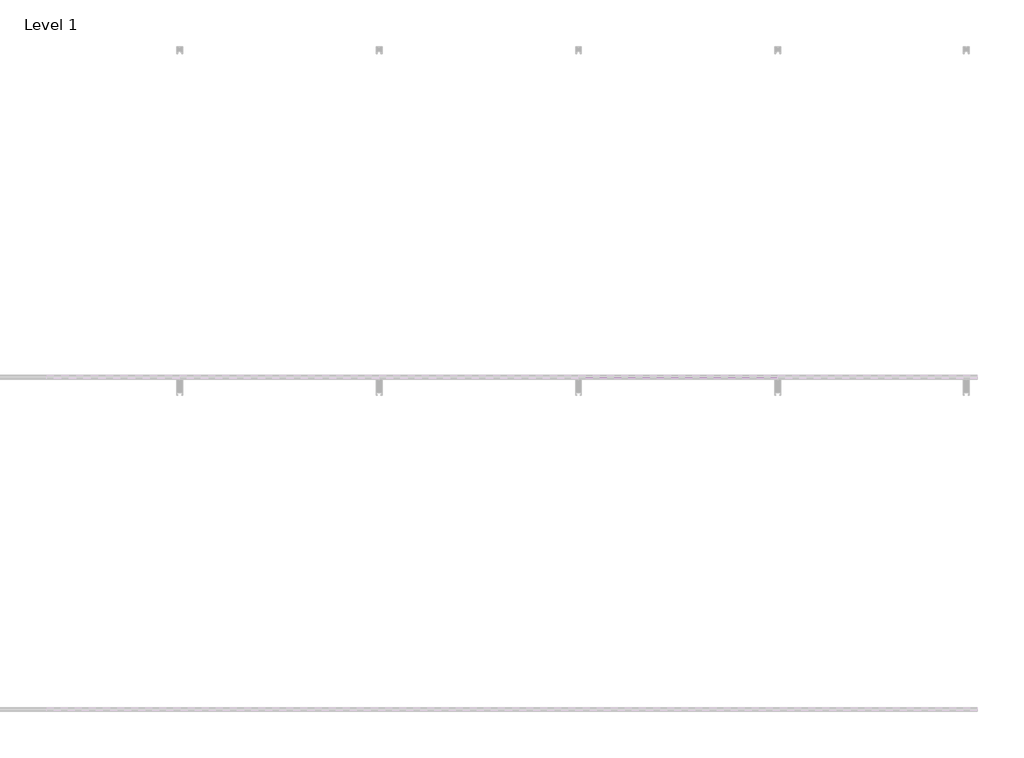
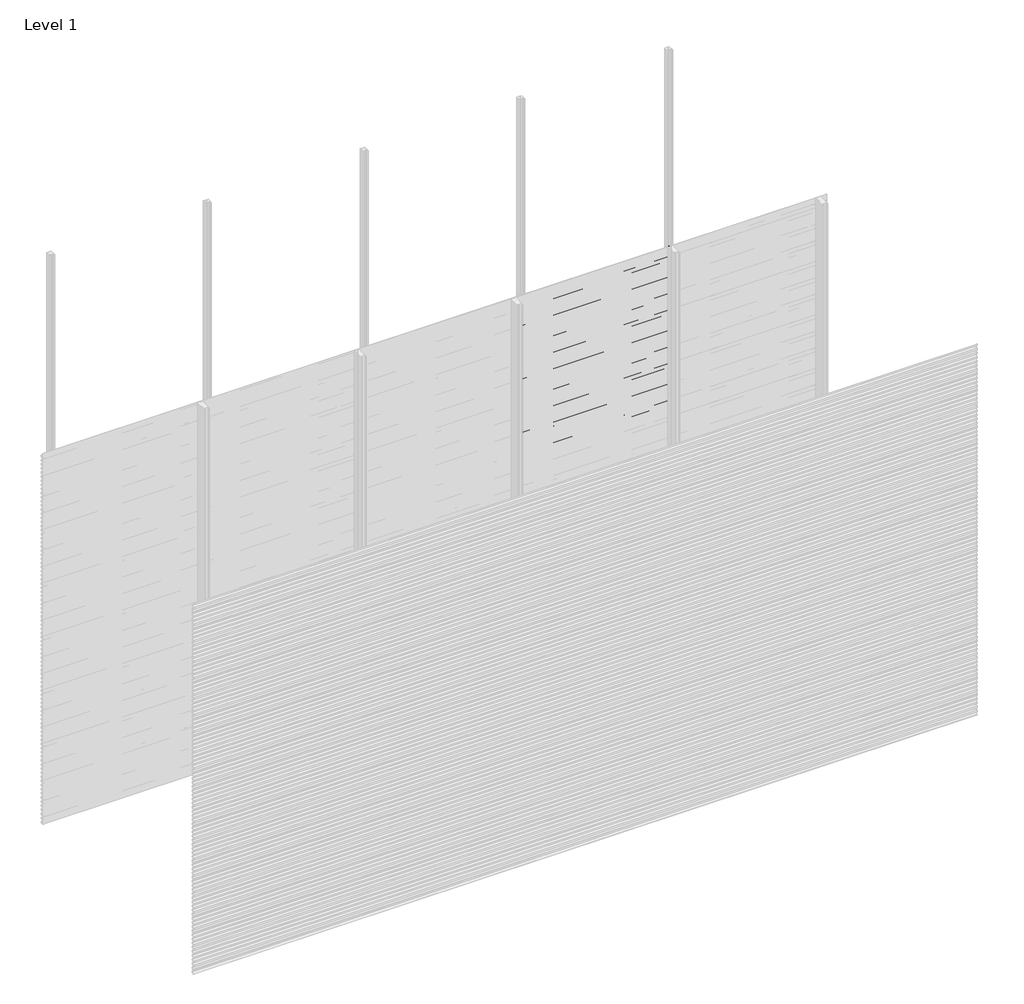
# One storey, part 53 of 77: 72 proxies.
"""IFC4 building model written with IfcOpenShell, lengths in millimetres."""

from ifc_helpers import new_model, si_unit, frame, origin, place, context, project, spatial, polyline, outline, extrude, element, save

model = new_model("IFC4")

# Units and contexts
model_context = context("Model", 3, world=origin())
ifc_project = project(units=[si_unit("LENGTHUNIT", "METRE", prefix="MILLI")], contexts=[model_context])

# Site, building, storey
site = spatial("IfcSite", under=ifc_project)
building = spatial("IfcBuilding", under=site)
storey = spatial("IfcBuildingStorey", under=building, Name="Level 1", Elevation=0.0)

# Proxies
placement = place(None, origin())
element("IfcBuildingElementProxy", 1, Name="Wall Sweeps", at=placement, inside=storey, context=model_context, shape_type="SweptSolid", body=[
    extrude(outline(polyline([(-17978.6, 1007.8359887), (-17998.0, 1019.0366691), (-17998.0, 1032.3), (-17997.0, 1032.3), (-17997.0, 1019.6191057), (-17977.6, 1008.4185105), (-17977.6, 994.8185105), (-17978.6, 996.3953129), (-17978.6, 1002.2032062), (-17995.9773817, 994.1), (-17996.4, 995.0063078), (-17978.6, 1003.3065841), (-17978.6, 1007.8359887)])), frame((2400.0, 0.0, 0.0), z_axis=(1.0, 0.0, 0.0), x_axis=(0.0, 1.0, 0.0)), (0.0, 0.0, 1.0), 1200.0),
])
element("IfcBuildingElementProxy", 2, Name="Wall Sweeps", at=placement, inside=storey, context=model_context, shape_type="SweptSolid", body=[
    extrude(outline(polyline([(-17978.6, 974.5359887), (-17998.0, 985.7366691), (-17998.0, 999.0), (-17997.0, 999.0), (-17997.0, 986.3191057), (-17977.6, 975.1185105), (-17977.6, 961.5185105), (-17978.6, 963.0953129), (-17978.6, 968.9032062), (-17995.9773817, 960.8), (-17996.4, 961.7063078), (-17978.6, 970.0065841), (-17978.6, 974.5359887)])), frame((2400.0, 0.0, 0.0), z_axis=(1.0, 0.0, 0.0), x_axis=(0.0, 1.0, 0.0)), (0.0, 0.0, 1.0), 1200.0),
])
element("IfcBuildingElementProxy", 3, Name="Wall Sweeps", at=placement, inside=storey, context=model_context, shape_type="SweptSolid", body=[
    extrude(outline(polyline([(-17978.6, 941.2359887), (-17998.0, 952.4366691), (-17998.0, 965.7), (-17997.0, 965.7), (-17997.0, 953.0191057), (-17977.6, 941.8185105), (-17977.6, 928.2185105), (-17978.6, 929.7953129), (-17978.6, 935.6032062), (-17995.9773817, 927.5), (-17996.4, 928.4063078), (-17978.6, 936.7065841), (-17978.6, 941.2359887)])), frame((2400.0, 0.0, 0.0), z_axis=(1.0, 0.0, 0.0), x_axis=(0.0, 1.0, 0.0)), (0.0, 0.0, 1.0), 1200.0),
])
element("IfcBuildingElementProxy", 4, Name="Wall Sweeps", at=placement, inside=storey, context=model_context, shape_type="SweptSolid", body=[
    extrude(outline(polyline([(-17978.6, 907.9359887), (-17998.0, 919.1366691), (-17998.0, 932.4), (-17997.0, 932.4), (-17997.0, 919.7191057), (-17977.6, 908.5185105), (-17977.6, 894.9185105), (-17978.6, 896.4953129), (-17978.6, 902.3032062), (-17995.9773817, 894.2), (-17996.4, 895.1063078), (-17978.6, 903.4065841), (-17978.6, 907.9359887)])), frame((2400.0, 0.0, 0.0), z_axis=(1.0, 0.0, 0.0), x_axis=(0.0, 1.0, 0.0)), (0.0, 0.0, 1.0), 1200.0),
])
element("IfcBuildingElementProxy", 5, Name="Wall Sweeps", at=placement, inside=storey, context=model_context, shape_type="SweptSolid", body=[
    extrude(outline(polyline([(-17978.6, 874.6359887), (-17998.0, 885.8366691), (-17998.0, 899.1), (-17997.0, 899.1), (-17997.0, 886.4191057), (-17977.6, 875.2185105), (-17977.6, 861.6185105), (-17978.6, 863.1953129), (-17978.6, 869.0032062), (-17995.9773817, 860.9), (-17996.4, 861.8063078), (-17978.6, 870.1065841), (-17978.6, 874.6359887)])), frame((2400.0, 0.0, 0.0), z_axis=(1.0, 0.0, 0.0), x_axis=(0.0, 1.0, 0.0)), (0.0, 0.0, 1.0), 1200.0),
])
element("IfcBuildingElementProxy", 6, Name="Wall Sweeps", at=placement, inside=storey, context=model_context, shape_type="SweptSolid", body=[
    extrude(outline(polyline([(-17978.6, 841.3359887), (-17998.0, 852.5366691), (-17998.0, 865.8), (-17997.0, 865.8), (-17997.0, 853.1191057), (-17977.6, 841.9185105), (-17977.6, 828.3185105), (-17978.6, 829.8953129), (-17978.6, 835.7032062), (-17995.9773817, 827.6), (-17996.4, 828.5063078), (-17978.6, 836.8065841), (-17978.6, 841.3359887)])), frame((2400.0, 0.0, 0.0), z_axis=(1.0, 0.0, 0.0), x_axis=(0.0, 1.0, 0.0)), (0.0, 0.0, 1.0), 1200.0),
])
element("IfcBuildingElementProxy", 7, Name="Wall Sweeps", at=placement, inside=storey, context=model_context, shape_type="SweptSolid", body=[
    extrude(outline(polyline([(-17978.6, 808.0359887), (-17998.0, 819.2366691), (-17998.0, 832.5), (-17997.0, 832.5), (-17997.0, 819.8191057), (-17977.6, 808.6185105), (-17977.6, 795.0185105), (-17978.6, 796.5953129), (-17978.6, 802.4032062), (-17995.9773817, 794.3), (-17996.4, 795.2063078), (-17978.6, 803.5065841), (-17978.6, 808.0359887)])), frame((2400.0, 0.0, 0.0), z_axis=(1.0, 0.0, 0.0), x_axis=(0.0, 1.0, 0.0)), (0.0, 0.0, 1.0), 1200.0),
])
element("IfcBuildingElementProxy", 8, Name="Wall Sweeps", at=placement, inside=storey, context=model_context, shape_type="SweptSolid", body=[
    extrude(outline(polyline([(-17978.6, 774.7359887), (-17998.0, 785.9366691), (-17998.0, 799.2), (-17997.0, 799.2), (-17997.0, 786.5191057), (-17977.6, 775.3185105), (-17977.6, 761.7185105), (-17978.6, 763.2953129), (-17978.6, 769.1032062), (-17995.9773817, 761.0), (-17996.4, 761.9063078), (-17978.6, 770.2065841), (-17978.6, 774.7359887)])), frame((2400.0, 0.0, 0.0), z_axis=(1.0, 0.0, 0.0), x_axis=(0.0, 1.0, 0.0)), (0.0, 0.0, 1.0), 1200.0),
])
element("IfcBuildingElementProxy", 9, Name="Wall Sweeps", at=placement, inside=storey, context=model_context, shape_type="SweptSolid", body=[
    extrude(outline(polyline([(-17978.6, 741.4359887), (-17998.0, 752.6366691), (-17998.0, 765.9), (-17997.0, 765.9), (-17997.0, 753.2191057), (-17977.6, 742.0185105), (-17977.6, 728.4185105), (-17978.6, 729.9953129), (-17978.6, 735.8032062), (-17995.9773817, 727.7), (-17996.4, 728.6063078), (-17978.6, 736.9065841), (-17978.6, 741.4359887)])), frame((2400.0, 0.0, 0.0), z_axis=(1.0, 0.0, 0.0), x_axis=(0.0, 1.0, 0.0)), (0.0, 0.0, 1.0), 1200.0),
])
element("IfcBuildingElementProxy", 10, Name="Wall Sweeps", at=placement, inside=storey, context=model_context, shape_type="SweptSolid", body=[
    extrude(outline(polyline([(-17978.6, 708.1359887), (-17998.0, 719.3366691), (-17998.0, 732.6), (-17997.0, 732.6), (-17997.0, 719.9191057), (-17977.6, 708.7185105), (-17977.6, 695.1185105), (-17978.6, 696.6953129), (-17978.6, 702.5032062), (-17995.9773817, 694.4), (-17996.4, 695.3063078), (-17978.6, 703.6065841), (-17978.6, 708.1359887)])), frame((2400.0, 0.0, 0.0), z_axis=(1.0, 0.0, 0.0), x_axis=(0.0, 1.0, 0.0)), (0.0, 0.0, 1.0), 1200.0),
])
element("IfcBuildingElementProxy", 11, Name="Wall Sweeps", at=placement, inside=storey, context=model_context, shape_type="SweptSolid", body=[
    extrude(outline(polyline([(-17978.6, 674.8359887), (-17998.0, 686.0366691), (-17998.0, 699.3), (-17997.0, 699.3), (-17997.0, 686.6191057), (-17977.6, 675.4185105), (-17977.6, 661.8185105), (-17978.6, 663.3953129), (-17978.6, 669.2032062), (-17995.9773817, 661.1), (-17996.4, 662.0063078), (-17978.6, 670.3065841), (-17978.6, 674.8359887)])), frame((2400.0, 0.0, 0.0), z_axis=(1.0, 0.0, 0.0), x_axis=(0.0, 1.0, 0.0)), (0.0, 0.0, 1.0), 1200.0),
])
element("IfcBuildingElementProxy", 12, Name="Wall Sweeps", at=placement, inside=storey, context=model_context, shape_type="SweptSolid", body=[
    extrude(outline(polyline([(-17978.6, 641.5359887), (-17998.0, 652.7366691), (-17998.0, 666.0), (-17997.0, 666.0), (-17997.0, 653.3191057), (-17977.6, 642.1185105), (-17977.6, 628.5185105), (-17978.6, 630.0953129), (-17978.6, 635.9032062), (-17995.9773817, 627.8), (-17996.4, 628.7063078), (-17978.6, 637.0065841), (-17978.6, 641.5359887)])), frame((2400.0, 0.0, 0.0), z_axis=(1.0, 0.0, 0.0), x_axis=(0.0, 1.0, 0.0)), (0.0, 0.0, 1.0), 1200.0),
])
element("IfcBuildingElementProxy", 13, Name="Wall Sweeps", at=placement, inside=storey, context=model_context, shape_type="SweptSolid", body=[
    extrude(outline(polyline([(-17978.6, 608.2359887), (-17998.0, 619.4366691), (-17998.0, 632.7), (-17997.0, 632.7), (-17997.0, 620.0191057), (-17977.6, 608.8185105), (-17977.6, 595.2185105), (-17978.6, 596.7953129), (-17978.6, 602.6032062), (-17995.9773817, 594.5), (-17996.4, 595.4063078), (-17978.6, 603.7065841), (-17978.6, 608.2359887)])), frame((2400.0, 0.0, 0.0), z_axis=(1.0, 0.0, 0.0), x_axis=(0.0, 1.0, 0.0)), (0.0, 0.0, 1.0), 1200.0),
])
element("IfcBuildingElementProxy", 14, Name="Wall Sweeps", at=placement, inside=storey, context=model_context, shape_type="SweptSolid", body=[
    extrude(outline(polyline([(-17978.6, 574.9359887), (-17998.0, 586.1366691), (-17998.0, 599.4), (-17997.0, 599.4), (-17997.0, 586.7191057), (-17977.6, 575.5185105), (-17977.6, 561.9185105), (-17978.6, 563.4953129), (-17978.6, 569.3032062), (-17995.9773817, 561.2), (-17996.4, 562.1063078), (-17978.6, 570.4065841), (-17978.6, 574.9359887)])), frame((2400.0, 0.0, 0.0), z_axis=(1.0, 0.0, 0.0), x_axis=(0.0, 1.0, 0.0)), (0.0, 0.0, 1.0), 1200.0),
])
element("IfcBuildingElementProxy", 15, Name="Wall Sweeps", at=placement, inside=storey, context=model_context, shape_type="SweptSolid", body=[
    extrude(outline(polyline([(-17978.6, 541.6359887), (-17998.0, 552.8366691), (-17998.0, 566.1), (-17997.0, 566.1), (-17997.0, 553.4191057), (-17977.6, 542.2185105), (-17977.6, 528.6185105), (-17978.6, 530.1953129), (-17978.6, 536.0032062), (-17995.9773817, 527.9), (-17996.4, 528.8063078), (-17978.6, 537.1065841), (-17978.6, 541.6359887)])), frame((2400.0, 0.0, 0.0), z_axis=(1.0, 0.0, 0.0), x_axis=(0.0, 1.0, 0.0)), (0.0, 0.0, 1.0), 1200.0),
])
element("IfcBuildingElementProxy", 16, Name="Wall Sweeps", at=placement, inside=storey, context=model_context, shape_type="SweptSolid", body=[
    extrude(outline(polyline([(-17978.6, 508.3359887), (-17998.0, 519.5366691), (-17998.0, 532.8), (-17997.0, 532.8), (-17997.0, 520.1191057), (-17977.6, 508.9185105), (-17977.6, 495.3185105), (-17978.6, 496.8953129), (-17978.6, 502.7032062), (-17995.9773817, 494.6), (-17996.4, 495.5063078), (-17978.6, 503.8065841), (-17978.6, 508.3359887)])), frame((2400.0, 0.0, 0.0), z_axis=(1.0, 0.0, 0.0), x_axis=(0.0, 1.0, 0.0)), (0.0, 0.0, 1.0), 1200.0),
])
element("IfcBuildingElementProxy", 17, Name="Wall Sweeps", at=placement, inside=storey, context=model_context, shape_type="SweptSolid", body=[
    extrude(outline(polyline([(-17978.6, 475.0359887), (-17998.0, 486.2366691), (-17998.0, 499.5), (-17997.0, 499.5), (-17997.0, 486.8191057), (-17977.6, 475.6185105), (-17977.6, 462.0185105), (-17978.6, 463.5953129), (-17978.6, 469.4032062), (-17995.9773817, 461.3), (-17996.4, 462.2063078), (-17978.6, 470.5065841), (-17978.6, 475.0359887)])), frame((2400.0, 0.0, 0.0), z_axis=(1.0, 0.0, 0.0), x_axis=(0.0, 1.0, 0.0)), (0.0, 0.0, 1.0), 1200.0),
])
element("IfcBuildingElementProxy", 18, Name="Wall Sweeps", at=placement, inside=storey, context=model_context, shape_type="SweptSolid", body=[
    extrude(outline(polyline([(-17978.6, 441.7359887), (-17998.0, 452.9366691), (-17998.0, 466.2), (-17997.0, 466.2), (-17997.0, 453.5191057), (-17977.6, 442.3185105), (-17977.6, 428.7185105), (-17978.6, 430.2953129), (-17978.6, 436.1032062), (-17995.9773817, 428.0), (-17996.4, 428.9063078), (-17978.6, 437.2065841), (-17978.6, 441.7359887)])), frame((2400.0, 0.0, 0.0), z_axis=(1.0, 0.0, 0.0), x_axis=(0.0, 1.0, 0.0)), (0.0, 0.0, 1.0), 1200.0),
])
element("IfcBuildingElementProxy", 19, Name="Wall Sweeps", at=placement, inside=storey, context=model_context, shape_type="SweptSolid", body=[
    extrude(outline(polyline([(-17978.6, 408.4359887), (-17998.0, 419.6366691), (-17998.0, 432.9), (-17997.0, 432.9), (-17997.0, 420.2191057), (-17977.6, 409.0185105), (-17977.6, 395.4185105), (-17978.6, 396.9953129), (-17978.6, 402.8032062), (-17995.9773817, 394.7), (-17996.4, 395.6063078), (-17978.6, 403.9065841), (-17978.6, 408.4359887)])), frame((2400.0, 0.0, 0.0), z_axis=(1.0, 0.0, 0.0), x_axis=(0.0, 1.0, 0.0)), (0.0, 0.0, 1.0), 1200.0),
])
element("IfcBuildingElementProxy", 20, Name="Wall Sweeps", at=placement, inside=storey, context=model_context, shape_type="SweptSolid", body=[
    extrude(outline(polyline([(-17978.6, 375.1359887), (-17998.0, 386.3366691), (-17998.0, 399.6), (-17997.0, 399.6), (-17997.0, 386.9191057), (-17977.6, 375.7185105), (-17977.6, 362.1185105), (-17978.6, 363.6953129), (-17978.6, 369.5032062), (-17995.9773817, 361.4), (-17996.4, 362.3063078), (-17978.6, 370.6065841), (-17978.6, 375.1359887)])), frame((2400.0, 0.0, 0.0), z_axis=(1.0, 0.0, 0.0), x_axis=(0.0, 1.0, 0.0)), (0.0, 0.0, 1.0), 1200.0),
])
element("IfcBuildingElementProxy", 21, Name="Wall Sweeps", at=placement, inside=storey, context=model_context, shape_type="SweptSolid", body=[
    extrude(outline(polyline([(-17978.6, 341.8359887), (-17998.0, 353.0366691), (-17998.0, 366.3), (-17997.0, 366.3), (-17997.0, 353.6191057), (-17977.6, 342.4185105), (-17977.6, 328.8185105), (-17978.6, 330.3953129), (-17978.6, 336.2032062), (-17995.9773817, 328.1), (-17996.4, 329.0063078), (-17978.6, 337.3065841), (-17978.6, 341.8359887)])), frame((2400.0, 0.0, 0.0), z_axis=(1.0, 0.0, 0.0), x_axis=(0.0, 1.0, 0.0)), (0.0, 0.0, 1.0), 1200.0),
])
element("IfcBuildingElementProxy", 22, Name="Wall Sweeps", at=placement, inside=storey, context=model_context, shape_type="SweptSolid", body=[
    extrude(outline(polyline([(-17978.6, 308.5359887), (-17998.0, 319.7366691), (-17998.0, 333.0), (-17997.0, 333.0), (-17997.0, 320.3191057), (-17977.6, 309.1185105), (-17977.6, 295.5185105), (-17978.6, 297.0953129), (-17978.6, 302.9032062), (-17995.9773817, 294.8), (-17996.4, 295.7063078), (-17978.6, 304.0065841), (-17978.6, 308.5359887)])), frame((2400.0, 0.0, 0.0), z_axis=(1.0, 0.0, 0.0), x_axis=(0.0, 1.0, 0.0)), (0.0, 0.0, 1.0), 1200.0),
])
element("IfcBuildingElementProxy", 23, Name="Wall Sweeps", at=placement, inside=storey, context=model_context, shape_type="SweptSolid", body=[
    extrude(outline(polyline([(-17978.6, 275.2359887), (-17998.0, 286.4366691), (-17998.0, 299.7), (-17997.0, 299.7), (-17997.0, 287.0191057), (-17977.6, 275.8185105), (-17977.6, 262.2185105), (-17978.6, 263.7953129), (-17978.6, 269.6032062), (-17995.9773817, 261.5), (-17996.4, 262.4063078), (-17978.6, 270.7065841), (-17978.6, 275.2359887)])), frame((2400.0, 0.0, 0.0), z_axis=(1.0, 0.0, 0.0), x_axis=(0.0, 1.0, 0.0)), (0.0, 0.0, 1.0), 1200.0),
])
element("IfcBuildingElementProxy", 24, Name="Wall Sweeps", at=placement, inside=storey, context=model_context, shape_type="SweptSolid", body=[
    extrude(outline(polyline([(-17978.6, 241.9359887), (-17998.0, 253.1366691), (-17998.0, 266.4), (-17997.0, 266.4), (-17997.0, 253.7191057), (-17977.6, 242.5185105), (-17977.6, 228.9185105), (-17978.6, 230.4953129), (-17978.6, 236.3032062), (-17995.9773817, 228.2), (-17996.4, 229.1063078), (-17978.6, 237.4065841), (-17978.6, 241.9359887)])), frame((2400.0, 0.0, 0.0), z_axis=(1.0, 0.0, 0.0), x_axis=(0.0, 1.0, 0.0)), (0.0, 0.0, 1.0), 1200.0),
])
element("IfcBuildingElementProxy", 25, Name="Wall Sweeps", at=placement, inside=storey, context=model_context, shape_type="SweptSolid", body=[
    extrude(outline(polyline([(-17978.6, 208.6359887), (-17998.0, 219.8366691), (-17998.0, 233.1), (-17997.0, 233.1), (-17997.0, 220.4191057), (-17977.6, 209.2185105), (-17977.6, 195.6185105), (-17978.6, 197.1953129), (-17978.6, 203.0032062), (-17995.9773817, 194.9), (-17996.4, 195.8063078), (-17978.6, 204.1065841), (-17978.6, 208.6359887)])), frame((2400.0, 0.0, 0.0), z_axis=(1.0, 0.0, 0.0), x_axis=(0.0, 1.0, 0.0)), (0.0, 0.0, 1.0), 1200.0),
])
element("IfcBuildingElementProxy", 26, Name="Wall Sweeps", at=placement, inside=storey, context=model_context, shape_type="SweptSolid", body=[
    extrude(outline(polyline([(-17978.6, 175.3359887), (-17998.0, 186.5366691), (-17998.0, 199.8), (-17997.0, 199.8), (-17997.0, 187.1191057), (-17977.6, 175.9185105), (-17977.6, 162.3185105), (-17978.6, 163.8953129), (-17978.6, 169.7032062), (-17995.9773817, 161.6), (-17996.4, 162.5063078), (-17978.6, 170.8065841), (-17978.6, 175.3359887)])), frame((2400.0, 0.0, 0.0), z_axis=(1.0, 0.0, 0.0), x_axis=(0.0, 1.0, 0.0)), (0.0, 0.0, 1.0), 1200.0),
])
element("IfcBuildingElementProxy", 27, Name="Wall Sweeps", at=placement, inside=storey, context=model_context, shape_type="SweptSolid", body=[
    extrude(outline(polyline([(-17978.6, 142.0359887), (-17998.0, 153.2366691), (-17998.0, 166.5), (-17997.0, 166.5), (-17997.0, 153.8191057), (-17977.6, 142.6185105), (-17977.6, 129.0185105), (-17978.6, 130.5953129), (-17978.6, 136.4032062), (-17995.9773817, 128.3), (-17996.4, 129.2063078), (-17978.6, 137.5065841), (-17978.6, 142.0359887)])), frame((2400.0, 0.0, 0.0), z_axis=(1.0, 0.0, 0.0), x_axis=(0.0, 1.0, 0.0)), (0.0, 0.0, 1.0), 1200.0),
])
element("IfcBuildingElementProxy", 28, Name="Wall Sweeps", at=placement, inside=storey, context=model_context, shape_type="SweptSolid", body=[
    extrude(outline(polyline([(-17978.6, 108.7359887), (-17998.0, 119.9366691), (-17998.0, 133.2), (-17997.0, 133.2), (-17997.0, 120.5191057), (-17977.6, 109.3185105), (-17977.6, 95.7185105), (-17978.6, 97.2953129), (-17978.6, 103.1032062), (-17995.9773817, 95.0), (-17996.4, 95.9063078), (-17978.6, 104.2065841), (-17978.6, 108.7359887)])), frame((2400.0, 0.0, 0.0), z_axis=(1.0, 0.0, 0.0), x_axis=(0.0, 1.0, 0.0)), (0.0, 0.0, 1.0), 1200.0),
])
element("IfcBuildingElementProxy", 29, Name="Wall Sweeps", at=placement, inside=storey, context=model_context, shape_type="SweptSolid", body=[
    extrude(outline(polyline([(-17978.6, 75.4359887), (-17998.0, 86.6366691), (-17998.0, 99.9), (-17997.0, 99.9), (-17997.0, 87.2191057), (-17977.6, 76.0185105), (-17977.6, 62.4185105), (-17978.6, 63.9953129), (-17978.6, 69.8032062), (-17995.9773817, 61.7), (-17996.4, 62.6063078), (-17978.6, 70.9065841), (-17978.6, 75.4359887)])), frame((2400.0, 0.0, 0.0), z_axis=(1.0, 0.0, 0.0), x_axis=(0.0, 1.0, 0.0)), (0.0, 0.0, 1.0), 1200.0),
])
element("IfcBuildingElementProxy", 30, Name="Wall Sweeps", at=placement, inside=storey, context=model_context, shape_type="SweptSolid", body=[
    extrude(outline(polyline([(-17978.6, 42.1359887), (-17998.0, 53.3366691), (-17998.0, 66.6), (-17997.0, 66.6), (-17997.0, 53.9191057), (-17977.6, 42.7185105), (-17977.6, 29.1185105), (-17978.6, 30.6953129), (-17978.6, 36.5032062), (-17995.9773817, 28.4), (-17996.4, 29.3063078), (-17978.6, 37.6065841), (-17978.6, 42.1359887)])), frame((2400.0, 0.0, 0.0), z_axis=(1.0, 0.0, 0.0), x_axis=(0.0, 1.0, 0.0)), (0.0, 0.0, 1.0), 1200.0),
])
element("IfcBuildingElementProxy", 31, Name="Wall Sweeps", at=placement, inside=storey, context=model_context, shape_type="SweptSolid", body=[
    extrude(outline(polyline([(-17978.6, 8.8359887), (-17998.0, 20.0366691), (-17998.0, 33.3), (-17997.0, 33.3), (-17997.0, 20.6191057), (-17977.6, 9.4185105), (-17977.6, -4.1814895), (-17978.6, -2.6046871), (-17978.6, 3.2032062), (-17995.9773817, -4.9), (-17996.4, -3.9936922), (-17978.6, 4.3065841), (-17978.6, 8.8359887)])), frame((2400.0, 0.0, 0.0), z_axis=(1.0, 0.0, 0.0), x_axis=(0.0, 1.0, 0.0)), (0.0, 0.0, 1.0), 1200.0),
])
element("IfcBuildingElementProxy", 32, Name="Wall Sweeps", at=placement, inside=storey, context=model_context, shape_type="SweptSolid", body=[
    extrude(outline(polyline([(-17978.6, 2972.5359887), (-17998.0, 2983.7366691), (-17998.0, 2997.0), (-17997.0, 2997.0), (-17997.0, 2984.3191057), (-17977.6, 2973.1185105), (-17977.6, 2959.5185105), (-17978.6, 2961.0953129), (-17978.6, 2966.9032062), (-17995.9773817, 2958.8), (-17996.4, 2959.7063078), (-17978.6, 2968.0065841), (-17978.6, 2972.5359887)])), frame((3600.0, 0.0, 0.0), z_axis=(1.0, 0.0, 0.0), x_axis=(0.0, 1.0, 0.0)), (0.0, 0.0, 1.0), 1200.0),
])
element("IfcBuildingElementProxy", 33, Name="Wall Sweeps", at=placement, inside=storey, context=model_context, shape_type="SweptSolid", body=[
    extrude(outline(polyline([(-17978.6, 2939.2359887), (-17998.0, 2950.4366691), (-17998.0, 2963.7), (-17997.0, 2963.7), (-17997.0, 2951.0191057), (-17977.6, 2939.8185105), (-17977.6, 2926.2185105), (-17978.6, 2927.7953129), (-17978.6, 2933.6032062), (-17995.9773817, 2925.5), (-17996.4, 2926.4063078), (-17978.6, 2934.7065841), (-17978.6, 2939.2359887)])), frame((3600.0, 0.0, 0.0), z_axis=(1.0, 0.0, 0.0), x_axis=(0.0, 1.0, 0.0)), (0.0, 0.0, 1.0), 1200.0),
])
element("IfcBuildingElementProxy", 34, Name="Wall Sweeps", at=placement, inside=storey, context=model_context, shape_type="SweptSolid", body=[
    extrude(outline(polyline([(-17978.6, 2905.9359887), (-17998.0, 2917.1366691), (-17998.0, 2930.4), (-17997.0, 2930.4), (-17997.0, 2917.7191057), (-17977.6, 2906.5185105), (-17977.6, 2892.9185105), (-17978.6, 2894.4953129), (-17978.6, 2900.3032062), (-17995.9773817, 2892.2), (-17996.4, 2893.1063078), (-17978.6, 2901.4065841), (-17978.6, 2905.9359887)])), frame((3600.0, 0.0, 0.0), z_axis=(1.0, 0.0, 0.0), x_axis=(0.0, 1.0, 0.0)), (0.0, 0.0, 1.0), 1200.0),
])
element("IfcBuildingElementProxy", 35, Name="Wall Sweeps", at=placement, inside=storey, context=model_context, shape_type="SweptSolid", body=[
    extrude(outline(polyline([(-17978.6, 2872.6359887), (-17998.0, 2883.8366691), (-17998.0, 2897.1), (-17997.0, 2897.1), (-17997.0, 2884.4191057), (-17977.6, 2873.2185105), (-17977.6, 2859.6185105), (-17978.6, 2861.1953129), (-17978.6, 2867.0032062), (-17995.9773817, 2858.9), (-17996.4, 2859.8063078), (-17978.6, 2868.1065841), (-17978.6, 2872.6359887)])), frame((3600.0, 0.0, 0.0), z_axis=(1.0, 0.0, 0.0), x_axis=(0.0, 1.0, 0.0)), (0.0, 0.0, 1.0), 1200.0),
])
element("IfcBuildingElementProxy", 36, Name="Wall Sweeps", at=placement, inside=storey, context=model_context, shape_type="SweptSolid", body=[
    extrude(outline(polyline([(-17978.6, 2839.3359887), (-17998.0, 2850.5366691), (-17998.0, 2863.8), (-17997.0, 2863.8), (-17997.0, 2851.1191057), (-17977.6, 2839.9185105), (-17977.6, 2826.3185105), (-17978.6, 2827.8953129), (-17978.6, 2833.7032062), (-17995.9773817, 2825.6), (-17996.4, 2826.5063078), (-17978.6, 2834.8065841), (-17978.6, 2839.3359887)])), frame((3600.0, 0.0, 0.0), z_axis=(1.0, 0.0, 0.0), x_axis=(0.0, 1.0, 0.0)), (0.0, 0.0, 1.0), 1200.0),
])
element("IfcBuildingElementProxy", 37, Name="Wall Sweeps", at=placement, inside=storey, context=model_context, shape_type="SweptSolid", body=[
    extrude(outline(polyline([(-17978.6, 2806.0359887), (-17998.0, 2817.2366691), (-17998.0, 2830.5), (-17997.0, 2830.5), (-17997.0, 2817.8191057), (-17977.6, 2806.6185105), (-17977.6, 2793.0185105), (-17978.6, 2794.5953129), (-17978.6, 2800.4032062), (-17995.9773817, 2792.3), (-17996.4, 2793.2063078), (-17978.6, 2801.5065841), (-17978.6, 2806.0359887)])), frame((3600.0, 0.0, 0.0), z_axis=(1.0, 0.0, 0.0), x_axis=(0.0, 1.0, 0.0)), (0.0, 0.0, 1.0), 1200.0),
])
element("IfcBuildingElementProxy", 38, Name="Wall Sweeps", at=placement, inside=storey, context=model_context, shape_type="SweptSolid", body=[
    extrude(outline(polyline([(-17978.6, 2772.7359887), (-17998.0, 2783.9366691), (-17998.0, 2797.2), (-17997.0, 2797.2), (-17997.0, 2784.5191057), (-17977.6, 2773.3185105), (-17977.6, 2759.7185105), (-17978.6, 2761.2953129), (-17978.6, 2767.1032062), (-17995.9773817, 2759.0), (-17996.4, 2759.9063078), (-17978.6, 2768.2065841), (-17978.6, 2772.7359887)])), frame((3600.0, 0.0, 0.0), z_axis=(1.0, 0.0, 0.0), x_axis=(0.0, 1.0, 0.0)), (0.0, 0.0, 1.0), 1200.0),
])
element("IfcBuildingElementProxy", 39, Name="Wall Sweeps", at=placement, inside=storey, context=model_context, shape_type="SweptSolid", body=[
    extrude(outline(polyline([(-17978.6, 2739.4359887), (-17998.0, 2750.6366691), (-17998.0, 2763.9), (-17997.0, 2763.9), (-17997.0, 2751.2191057), (-17977.6, 2740.0185105), (-17977.6, 2726.4185105), (-17978.6, 2727.9953129), (-17978.6, 2733.8032062), (-17995.9773817, 2725.7), (-17996.4, 2726.6063078), (-17978.6, 2734.9065841), (-17978.6, 2739.4359887)])), frame((3600.0, 0.0, 0.0), z_axis=(1.0, 0.0, 0.0), x_axis=(0.0, 1.0, 0.0)), (0.0, 0.0, 1.0), 1200.0),
])
element("IfcBuildingElementProxy", 40, Name="Wall Sweeps", at=placement, inside=storey, context=model_context, shape_type="SweptSolid", body=[
    extrude(outline(polyline([(-17978.6, 2706.1359887), (-17998.0, 2717.3366691), (-17998.0, 2730.6), (-17997.0, 2730.6), (-17997.0, 2717.9191057), (-17977.6, 2706.7185105), (-17977.6, 2693.1185105), (-17978.6, 2694.6953129), (-17978.6, 2700.5032062), (-17995.9773817, 2692.4), (-17996.4, 2693.3063078), (-17978.6, 2701.6065841), (-17978.6, 2706.1359887)])), frame((3600.0, 0.0, 0.0), z_axis=(1.0, 0.0, 0.0), x_axis=(0.0, 1.0, 0.0)), (0.0, 0.0, 1.0), 1200.0),
])
element("IfcBuildingElementProxy", 41, Name="Wall Sweeps", at=placement, inside=storey, context=model_context, shape_type="SweptSolid", body=[
    extrude(outline(polyline([(-17978.6, 2672.8359887), (-17998.0, 2684.0366691), (-17998.0, 2697.3), (-17997.0, 2697.3), (-17997.0, 2684.6191057), (-17977.6, 2673.4185105), (-17977.6, 2659.8185105), (-17978.6, 2661.3953129), (-17978.6, 2667.2032062), (-17995.9773817, 2659.1), (-17996.4, 2660.0063078), (-17978.6, 2668.3065841), (-17978.6, 2672.8359887)])), frame((3600.0, 0.0, 0.0), z_axis=(1.0, 0.0, 0.0), x_axis=(0.0, 1.0, 0.0)), (0.0, 0.0, 1.0), 1200.0),
])
element("IfcBuildingElementProxy", 42, Name="Wall Sweeps", at=placement, inside=storey, context=model_context, shape_type="SweptSolid", body=[
    extrude(outline(polyline([(-17978.6, 2639.5359887), (-17998.0, 2650.7366691), (-17998.0, 2664.0), (-17997.0, 2664.0), (-17997.0, 2651.3191057), (-17977.6, 2640.1185105), (-17977.6, 2626.5185105), (-17978.6, 2628.0953129), (-17978.6, 2633.9032062), (-17995.9773817, 2625.8), (-17996.4, 2626.7063078), (-17978.6, 2635.0065841), (-17978.6, 2639.5359887)])), frame((3600.0, 0.0, 0.0), z_axis=(1.0, 0.0, 0.0), x_axis=(0.0, 1.0, 0.0)), (0.0, 0.0, 1.0), 1200.0),
])
element("IfcBuildingElementProxy", 43, Name="Wall Sweeps", at=placement, inside=storey, context=model_context, shape_type="SweptSolid", body=[
    extrude(outline(polyline([(-17978.6, 2606.2359887), (-17998.0, 2617.4366691), (-17998.0, 2630.7), (-17997.0, 2630.7), (-17997.0, 2618.0191057), (-17977.6, 2606.8185105), (-17977.6, 2593.2185105), (-17978.6, 2594.7953129), (-17978.6, 2600.6032062), (-17995.9773817, 2592.5), (-17996.4, 2593.4063078), (-17978.6, 2601.7065841), (-17978.6, 2606.2359887)])), frame((3600.0, 0.0, 0.0), z_axis=(1.0, 0.0, 0.0), x_axis=(0.0, 1.0, 0.0)), (0.0, 0.0, 1.0), 1200.0),
])
element("IfcBuildingElementProxy", 44, Name="Wall Sweeps", at=placement, inside=storey, context=model_context, shape_type="SweptSolid", body=[
    extrude(outline(polyline([(-17978.6, 2572.9359887), (-17998.0, 2584.1366691), (-17998.0, 2597.4), (-17997.0, 2597.4), (-17997.0, 2584.7191057), (-17977.6, 2573.5185105), (-17977.6, 2559.9185105), (-17978.6, 2561.4953129), (-17978.6, 2567.3032062), (-17995.9773817, 2559.2), (-17996.4, 2560.1063078), (-17978.6, 2568.4065841), (-17978.6, 2572.9359887)])), frame((3600.0, 0.0, 0.0), z_axis=(1.0, 0.0, 0.0), x_axis=(0.0, 1.0, 0.0)), (0.0, 0.0, 1.0), 1200.0),
])
element("IfcBuildingElementProxy", 45, Name="Wall Sweeps", at=placement, inside=storey, context=model_context, shape_type="SweptSolid", body=[
    extrude(outline(polyline([(-17978.6, 2539.6359887), (-17998.0, 2550.8366691), (-17998.0, 2564.1), (-17997.0, 2564.1), (-17997.0, 2551.4191057), (-17977.6, 2540.2185105), (-17977.6, 2526.6185105), (-17978.6, 2528.1953129), (-17978.6, 2534.0032062), (-17995.9773817, 2525.9), (-17996.4, 2526.8063078), (-17978.6, 2535.1065841), (-17978.6, 2539.6359887)])), frame((3600.0, 0.0, 0.0), z_axis=(1.0, 0.0, 0.0), x_axis=(0.0, 1.0, 0.0)), (0.0, 0.0, 1.0), 1200.0),
])
element("IfcBuildingElementProxy", 46, Name="Wall Sweeps", at=placement, inside=storey, context=model_context, shape_type="SweptSolid", body=[
    extrude(outline(polyline([(-17978.6, 2506.3359887), (-17998.0, 2517.5366691), (-17998.0, 2530.8), (-17997.0, 2530.8), (-17997.0, 2518.1191057), (-17977.6, 2506.9185105), (-17977.6, 2493.3185105), (-17978.6, 2494.8953129), (-17978.6, 2500.7032062), (-17995.9773817, 2492.6), (-17996.4, 2493.5063078), (-17978.6, 2501.8065841), (-17978.6, 2506.3359887)])), frame((3600.0, 0.0, 0.0), z_axis=(1.0, 0.0, 0.0), x_axis=(0.0, 1.0, 0.0)), (0.0, 0.0, 1.0), 1200.0),
])
element("IfcBuildingElementProxy", 47, Name="Wall Sweeps", at=placement, inside=storey, context=model_context, shape_type="SweptSolid", body=[
    extrude(outline(polyline([(-17978.6, 2473.0359887), (-17998.0, 2484.2366691), (-17998.0, 2497.5), (-17997.0, 2497.5), (-17997.0, 2484.8191057), (-17977.6, 2473.6185105), (-17977.6, 2460.0185105), (-17978.6, 2461.5953129), (-17978.6, 2467.4032062), (-17995.9773817, 2459.3), (-17996.4, 2460.2063078), (-17978.6, 2468.5065841), (-17978.6, 2473.0359887)])), frame((3600.0, 0.0, 0.0), z_axis=(1.0, 0.0, 0.0), x_axis=(0.0, 1.0, 0.0)), (0.0, 0.0, 1.0), 1200.0),
])
element("IfcBuildingElementProxy", 48, Name="Wall Sweeps", at=placement, inside=storey, context=model_context, shape_type="SweptSolid", body=[
    extrude(outline(polyline([(-17978.6, 2439.7359887), (-17998.0, 2450.9366691), (-17998.0, 2464.2), (-17997.0, 2464.2), (-17997.0, 2451.5191057), (-17977.6, 2440.3185105), (-17977.6, 2426.7185105), (-17978.6, 2428.2953129), (-17978.6, 2434.1032062), (-17995.9773817, 2426.0), (-17996.4, 2426.9063078), (-17978.6, 2435.2065841), (-17978.6, 2439.7359887)])), frame((3600.0, 0.0, 0.0), z_axis=(1.0, 0.0, 0.0), x_axis=(0.0, 1.0, 0.0)), (0.0, 0.0, 1.0), 1200.0),
])
element("IfcBuildingElementProxy", 49, Name="Wall Sweeps", at=placement, inside=storey, context=model_context, shape_type="SweptSolid", body=[
    extrude(outline(polyline([(-17978.6, 2406.4359887), (-17998.0, 2417.6366691), (-17998.0, 2430.9), (-17997.0, 2430.9), (-17997.0, 2418.2191057), (-17977.6, 2407.0185105), (-17977.6, 2393.4185105), (-17978.6, 2394.9953129), (-17978.6, 2400.8032062), (-17995.9773817, 2392.7), (-17996.4, 2393.6063078), (-17978.6, 2401.9065841), (-17978.6, 2406.4359887)])), frame((3600.0, 0.0, 0.0), z_axis=(1.0, 0.0, 0.0), x_axis=(0.0, 1.0, 0.0)), (0.0, 0.0, 1.0), 1200.0),
])
element("IfcBuildingElementProxy", 50, Name="Wall Sweeps", at=placement, inside=storey, context=model_context, shape_type="SweptSolid", body=[
    extrude(outline(polyline([(-17978.6, 2373.1359887), (-17998.0, 2384.3366691), (-17998.0, 2397.6), (-17997.0, 2397.6), (-17997.0, 2384.9191057), (-17977.6, 2373.7185105), (-17977.6, 2360.1185105), (-17978.6, 2361.6953129), (-17978.6, 2367.5032062), (-17995.9773817, 2359.4), (-17996.4, 2360.3063078), (-17978.6, 2368.6065841), (-17978.6, 2373.1359887)])), frame((3600.0, 0.0, 0.0), z_axis=(1.0, 0.0, 0.0), x_axis=(0.0, 1.0, 0.0)), (0.0, 0.0, 1.0), 1200.0),
])
element("IfcBuildingElementProxy", 51, Name="Wall Sweeps", at=placement, inside=storey, context=model_context, shape_type="SweptSolid", body=[
    extrude(outline(polyline([(-17978.6, 2339.8359887), (-17998.0, 2351.0366691), (-17998.0, 2364.3), (-17997.0, 2364.3), (-17997.0, 2351.6191057), (-17977.6, 2340.4185105), (-17977.6, 2326.8185105), (-17978.6, 2328.3953129), (-17978.6, 2334.2032062), (-17995.9773817, 2326.1), (-17996.4, 2327.0063078), (-17978.6, 2335.3065841), (-17978.6, 2339.8359887)])), frame((3600.0, 0.0, 0.0), z_axis=(1.0, 0.0, 0.0), x_axis=(0.0, 1.0, 0.0)), (0.0, 0.0, 1.0), 1200.0),
])
element("IfcBuildingElementProxy", 52, Name="Wall Sweeps", at=placement, inside=storey, context=model_context, shape_type="SweptSolid", body=[
    extrude(outline(polyline([(-17978.6, 2306.5359887), (-17998.0, 2317.7366691), (-17998.0, 2331.0), (-17997.0, 2331.0), (-17997.0, 2318.3191057), (-17977.6, 2307.1185105), (-17977.6, 2293.5185105), (-17978.6, 2295.0953129), (-17978.6, 2300.9032062), (-17995.9773817, 2292.8), (-17996.4, 2293.7063078), (-17978.6, 2302.0065841), (-17978.6, 2306.5359887)])), frame((3600.0, 0.0, 0.0), z_axis=(1.0, 0.0, 0.0), x_axis=(0.0, 1.0, 0.0)), (0.0, 0.0, 1.0), 1200.0),
])
element("IfcBuildingElementProxy", 53, Name="Wall Sweeps", at=placement, inside=storey, context=model_context, shape_type="SweptSolid", body=[
    extrude(outline(polyline([(-17978.6, 2273.2359887), (-17998.0, 2284.4366691), (-17998.0, 2297.7), (-17997.0, 2297.7), (-17997.0, 2285.0191057), (-17977.6, 2273.8185105), (-17977.6, 2260.2185105), (-17978.6, 2261.7953129), (-17978.6, 2267.6032062), (-17995.9773817, 2259.5), (-17996.4, 2260.4063078), (-17978.6, 2268.7065841), (-17978.6, 2273.2359887)])), frame((3600.0, 0.0, 0.0), z_axis=(1.0, 0.0, 0.0), x_axis=(0.0, 1.0, 0.0)), (0.0, 0.0, 1.0), 1200.0),
])
element("IfcBuildingElementProxy", 54, Name="Wall Sweeps", at=placement, inside=storey, context=model_context, shape_type="SweptSolid", body=[
    extrude(outline(polyline([(-17978.6, 2239.9359887), (-17998.0, 2251.1366691), (-17998.0, 2264.4), (-17997.0, 2264.4), (-17997.0, 2251.7191057), (-17977.6, 2240.5185105), (-17977.6, 2226.9185105), (-17978.6, 2228.4953129), (-17978.6, 2234.3032062), (-17995.9773817, 2226.2), (-17996.4, 2227.1063078), (-17978.6, 2235.4065841), (-17978.6, 2239.9359887)])), frame((3600.0, 0.0, 0.0), z_axis=(1.0, 0.0, 0.0), x_axis=(0.0, 1.0, 0.0)), (0.0, 0.0, 1.0), 1200.0),
])
element("IfcBuildingElementProxy", 55, Name="Wall Sweeps", at=placement, inside=storey, context=model_context, shape_type="SweptSolid", body=[
    extrude(outline(polyline([(-17978.6, 2206.6359887), (-17998.0, 2217.8366691), (-17998.0, 2231.1), (-17997.0, 2231.1), (-17997.0, 2218.4191057), (-17977.6, 2207.2185105), (-17977.6, 2193.6185105), (-17978.6, 2195.1953129), (-17978.6, 2201.0032062), (-17995.9773817, 2192.9), (-17996.4, 2193.8063078), (-17978.6, 2202.1065841), (-17978.6, 2206.6359887)])), frame((3600.0, 0.0, 0.0), z_axis=(1.0, 0.0, 0.0), x_axis=(0.0, 1.0, 0.0)), (0.0, 0.0, 1.0), 1200.0),
])
element("IfcBuildingElementProxy", 56, Name="Wall Sweeps", at=placement, inside=storey, context=model_context, shape_type="SweptSolid", body=[
    extrude(outline(polyline([(-17978.6, 2173.3359887), (-17998.0, 2184.5366691), (-17998.0, 2197.8), (-17997.0, 2197.8), (-17997.0, 2185.1191057), (-17977.6, 2173.9185105), (-17977.6, 2160.3185105), (-17978.6, 2161.8953129), (-17978.6, 2167.7032062), (-17995.9773817, 2159.6), (-17996.4, 2160.5063078), (-17978.6, 2168.8065841), (-17978.6, 2173.3359887)])), frame((3600.0, 0.0, 0.0), z_axis=(1.0, 0.0, 0.0), x_axis=(0.0, 1.0, 0.0)), (0.0, 0.0, 1.0), 1200.0),
])
element("IfcBuildingElementProxy", 57, Name="Wall Sweeps", at=placement, inside=storey, context=model_context, shape_type="SweptSolid", body=[
    extrude(outline(polyline([(-17978.6, 2140.0359887), (-17998.0, 2151.2366691), (-17998.0, 2164.5), (-17997.0, 2164.5), (-17997.0, 2151.8191057), (-17977.6, 2140.6185105), (-17977.6, 2127.0185105), (-17978.6, 2128.5953129), (-17978.6, 2134.4032062), (-17995.9773817, 2126.3), (-17996.4, 2127.2063078), (-17978.6, 2135.5065841), (-17978.6, 2140.0359887)])), frame((3600.0, 0.0, 0.0), z_axis=(1.0, 0.0, 0.0), x_axis=(0.0, 1.0, 0.0)), (0.0, 0.0, 1.0), 1200.0),
])
element("IfcBuildingElementProxy", 58, Name="Wall Sweeps", at=placement, inside=storey, context=model_context, shape_type="SweptSolid", body=[
    extrude(outline(polyline([(-17978.6, 2106.7359887), (-17998.0, 2117.9366691), (-17998.0, 2131.2), (-17997.0, 2131.2), (-17997.0, 2118.5191057), (-17977.6, 2107.3185105), (-17977.6, 2093.7185105), (-17978.6, 2095.2953129), (-17978.6, 2101.1032062), (-17995.9773817, 2093.0), (-17996.4, 2093.9063078), (-17978.6, 2102.2065841), (-17978.6, 2106.7359887)])), frame((3600.0, 0.0, 0.0), z_axis=(1.0, 0.0, 0.0), x_axis=(0.0, 1.0, 0.0)), (0.0, 0.0, 1.0), 1200.0),
])
element("IfcBuildingElementProxy", 59, Name="Wall Sweeps", at=placement, inside=storey, context=model_context, shape_type="SweptSolid", body=[
    extrude(outline(polyline([(-17978.6, 2073.4359887), (-17998.0, 2084.6366691), (-17998.0, 2097.9), (-17997.0, 2097.9), (-17997.0, 2085.2191057), (-17977.6, 2074.0185105), (-17977.6, 2060.4185105), (-17978.6, 2061.9953129), (-17978.6, 2067.8032062), (-17995.9773817, 2059.7), (-17996.4, 2060.6063078), (-17978.6, 2068.9065841), (-17978.6, 2073.4359887)])), frame((3600.0, 0.0, 0.0), z_axis=(1.0, 0.0, 0.0), x_axis=(0.0, 1.0, 0.0)), (0.0, 0.0, 1.0), 1200.0),
])
element("IfcBuildingElementProxy", 60, Name="Wall Sweeps", at=placement, inside=storey, context=model_context, shape_type="SweptSolid", body=[
    extrude(outline(polyline([(-17978.6, 2040.1359887), (-17998.0, 2051.3366691), (-17998.0, 2064.6), (-17997.0, 2064.6), (-17997.0, 2051.9191057), (-17977.6, 2040.7185105), (-17977.6, 2027.1185105), (-17978.6, 2028.6953129), (-17978.6, 2034.5032062), (-17995.9773817, 2026.4), (-17996.4, 2027.3063078), (-17978.6, 2035.6065841), (-17978.6, 2040.1359887)])), frame((3600.0, 0.0, 0.0), z_axis=(1.0, 0.0, 0.0), x_axis=(0.0, 1.0, 0.0)), (0.0, 0.0, 1.0), 1200.0),
])
element("IfcBuildingElementProxy", 61, Name="Wall Sweeps", at=placement, inside=storey, context=model_context, shape_type="SweptSolid", body=[
    extrude(outline(polyline([(-17978.6, 2006.8359887), (-17998.0, 2018.0366691), (-17998.0, 2031.3), (-17997.0, 2031.3), (-17997.0, 2018.6191057), (-17977.6, 2007.4185105), (-17977.6, 1993.8185105), (-17978.6, 1995.3953129), (-17978.6, 2001.2032062), (-17995.9773817, 1993.1), (-17996.4, 1994.0063078), (-17978.6, 2002.3065841), (-17978.6, 2006.8359887)])), frame((3600.0, 0.0, 0.0), z_axis=(1.0, 0.0, 0.0), x_axis=(0.0, 1.0, 0.0)), (0.0, 0.0, 1.0), 1200.0),
])
element("IfcBuildingElementProxy", 62, Name="Wall Sweeps", at=placement, inside=storey, context=model_context, shape_type="SweptSolid", body=[
    extrude(outline(polyline([(-17978.6, 1973.5359887), (-17998.0, 1984.7366691), (-17998.0, 1998.0), (-17997.0, 1998.0), (-17997.0, 1985.3191057), (-17977.6, 1974.1185105), (-17977.6, 1960.5185105), (-17978.6, 1962.0953129), (-17978.6, 1967.9032062), (-17995.9773817, 1959.8), (-17996.4, 1960.7063078), (-17978.6, 1969.0065841), (-17978.6, 1973.5359887)])), frame((3600.0, 0.0, 0.0), z_axis=(1.0, 0.0, 0.0), x_axis=(0.0, 1.0, 0.0)), (0.0, 0.0, 1.0), 1200.0),
])
element("IfcBuildingElementProxy", 63, Name="Wall Sweeps", at=placement, inside=storey, context=model_context, shape_type="SweptSolid", body=[
    extrude(outline(polyline([(-17978.6, 1940.2359887), (-17998.0, 1951.4366691), (-17998.0, 1964.7), (-17997.0, 1964.7), (-17997.0, 1952.0191057), (-17977.6, 1940.8185105), (-17977.6, 1927.2185105), (-17978.6, 1928.7953129), (-17978.6, 1934.6032062), (-17995.9773817, 1926.5), (-17996.4, 1927.4063078), (-17978.6, 1935.7065841), (-17978.6, 1940.2359887)])), frame((3600.0, 0.0, 0.0), z_axis=(1.0, 0.0, 0.0), x_axis=(0.0, 1.0, 0.0)), (0.0, 0.0, 1.0), 1200.0),
])
element("IfcBuildingElementProxy", 64, Name="Wall Sweeps", at=placement, inside=storey, context=model_context, shape_type="SweptSolid", body=[
    extrude(outline(polyline([(-17978.6, 1906.9359887), (-17998.0, 1918.1366691), (-17998.0, 1931.4), (-17997.0, 1931.4), (-17997.0, 1918.7191057), (-17977.6, 1907.5185105), (-17977.6, 1893.9185105), (-17978.6, 1895.4953129), (-17978.6, 1901.3032062), (-17995.9773817, 1893.2), (-17996.4, 1894.1063078), (-17978.6, 1902.4065841), (-17978.6, 1906.9359887)])), frame((3600.0, 0.0, 0.0), z_axis=(1.0, 0.0, 0.0), x_axis=(0.0, 1.0, 0.0)), (0.0, 0.0, 1.0), 1200.0),
])
element("IfcBuildingElementProxy", 65, Name="Wall Sweeps", at=placement, inside=storey, context=model_context, shape_type="SweptSolid", body=[
    extrude(outline(polyline([(-17978.6, 1873.6359887), (-17998.0, 1884.8366691), (-17998.0, 1898.1), (-17997.0, 1898.1), (-17997.0, 1885.4191057), (-17977.6, 1874.2185105), (-17977.6, 1860.6185105), (-17978.6, 1862.1953129), (-17978.6, 1868.0032062), (-17995.9773817, 1859.9), (-17996.4, 1860.8063078), (-17978.6, 1869.1065841), (-17978.6, 1873.6359887)])), frame((3600.0, 0.0, 0.0), z_axis=(1.0, 0.0, 0.0), x_axis=(0.0, 1.0, 0.0)), (0.0, 0.0, 1.0), 1200.0),
])
element("IfcBuildingElementProxy", 66, Name="Wall Sweeps", at=placement, inside=storey, context=model_context, shape_type="SweptSolid", body=[
    extrude(outline(polyline([(-17978.6, 1840.3359887), (-17998.0, 1851.5366691), (-17998.0, 1864.8), (-17997.0, 1864.8), (-17997.0, 1852.1191057), (-17977.6, 1840.9185105), (-17977.6, 1827.3185105), (-17978.6, 1828.8953129), (-17978.6, 1834.7032062), (-17995.9773817, 1826.6), (-17996.4, 1827.5063078), (-17978.6, 1835.8065841), (-17978.6, 1840.3359887)])), frame((3600.0, 0.0, 0.0), z_axis=(1.0, 0.0, 0.0), x_axis=(0.0, 1.0, 0.0)), (0.0, 0.0, 1.0), 1200.0),
])
element("IfcBuildingElementProxy", 67, Name="Wall Sweeps", at=placement, inside=storey, context=model_context, shape_type="SweptSolid", body=[
    extrude(outline(polyline([(-17978.6, 1807.0359887), (-17998.0, 1818.2366691), (-17998.0, 1831.5), (-17997.0, 1831.5), (-17997.0, 1818.8191057), (-17977.6, 1807.6185105), (-17977.6, 1794.0185105), (-17978.6, 1795.5953129), (-17978.6, 1801.4032062), (-17995.9773817, 1793.3), (-17996.4, 1794.2063078), (-17978.6, 1802.5065841), (-17978.6, 1807.0359887)])), frame((3600.0, 0.0, 0.0), z_axis=(1.0, 0.0, 0.0), x_axis=(0.0, 1.0, 0.0)), (0.0, 0.0, 1.0), 1200.0),
])
element("IfcBuildingElementProxy", 68, Name="Wall Sweeps", at=placement, inside=storey, context=model_context, shape_type="SweptSolid", body=[
    extrude(outline(polyline([(-17978.6, 1773.7359887), (-17998.0, 1784.9366691), (-17998.0, 1798.2), (-17997.0, 1798.2), (-17997.0, 1785.5191057), (-17977.6, 1774.3185105), (-17977.6, 1760.7185105), (-17978.6, 1762.2953129), (-17978.6, 1768.1032062), (-17995.9773817, 1760.0), (-17996.4, 1760.9063078), (-17978.6, 1769.2065841), (-17978.6, 1773.7359887)])), frame((3600.0, 0.0, 0.0), z_axis=(1.0, 0.0, 0.0), x_axis=(0.0, 1.0, 0.0)), (0.0, 0.0, 1.0), 1200.0),
])
element("IfcBuildingElementProxy", 69, Name="Wall Sweeps", at=placement, inside=storey, context=model_context, shape_type="SweptSolid", body=[
    extrude(outline(polyline([(-17978.6, 1740.4359887), (-17998.0, 1751.6366691), (-17998.0, 1764.9), (-17997.0, 1764.9), (-17997.0, 1752.2191057), (-17977.6, 1741.0185105), (-17977.6, 1727.4185105), (-17978.6, 1728.9953129), (-17978.6, 1734.8032062), (-17995.9773817, 1726.7), (-17996.4, 1727.6063078), (-17978.6, 1735.9065841), (-17978.6, 1740.4359887)])), frame((3600.0, 0.0, 0.0), z_axis=(1.0, 0.0, 0.0), x_axis=(0.0, 1.0, 0.0)), (0.0, 0.0, 1.0), 1200.0),
])
element("IfcBuildingElementProxy", 70, Name="Wall Sweeps", at=placement, inside=storey, context=model_context, shape_type="SweptSolid", body=[
    extrude(outline(polyline([(-17978.6, 1707.1359887), (-17998.0, 1718.3366691), (-17998.0, 1731.6), (-17997.0, 1731.6), (-17997.0, 1718.9191057), (-17977.6, 1707.7185105), (-17977.6, 1694.1185105), (-17978.6, 1695.6953129), (-17978.6, 1701.5032062), (-17995.9773817, 1693.4), (-17996.4, 1694.3063078), (-17978.6, 1702.6065841), (-17978.6, 1707.1359887)])), frame((3600.0, 0.0, 0.0), z_axis=(1.0, 0.0, 0.0), x_axis=(0.0, 1.0, 0.0)), (0.0, 0.0, 1.0), 1200.0),
])
element("IfcBuildingElementProxy", 71, Name="Wall Sweeps", at=placement, inside=storey, context=model_context, shape_type="SweptSolid", body=[
    extrude(outline(polyline([(-17978.6, 1673.8359887), (-17998.0, 1685.0366691), (-17998.0, 1698.3), (-17997.0, 1698.3), (-17997.0, 1685.6191057), (-17977.6, 1674.4185105), (-17977.6, 1660.8185105), (-17978.6, 1662.3953129), (-17978.6, 1668.2032062), (-17995.9773817, 1660.1), (-17996.4, 1661.0063078), (-17978.6, 1669.3065841), (-17978.6, 1673.8359887)])), frame((3600.0, 0.0, 0.0), z_axis=(1.0, 0.0, 0.0), x_axis=(0.0, 1.0, 0.0)), (0.0, 0.0, 1.0), 1200.0),
])
element("IfcBuildingElementProxy", 72, Name="Wall Sweeps", at=placement, inside=storey, context=model_context, shape_type="SweptSolid", body=[
    extrude(outline(polyline([(-17978.6, 1640.5359887), (-17998.0, 1651.7366691), (-17998.0, 1665.0), (-17997.0, 1665.0), (-17997.0, 1652.3191057), (-17977.6, 1641.1185105), (-17977.6, 1627.5185105), (-17978.6, 1629.0953129), (-17978.6, 1634.9032062), (-17995.9773817, 1626.8), (-17996.4, 1627.7063078), (-17978.6, 1636.0065841), (-17978.6, 1640.5359887)])), frame((3600.0, 0.0, 0.0), z_axis=(1.0, 0.0, 0.0), x_axis=(0.0, 1.0, 0.0)), (0.0, 0.0, 1.0), 1200.0),
])

save(model, "model.ifc")
